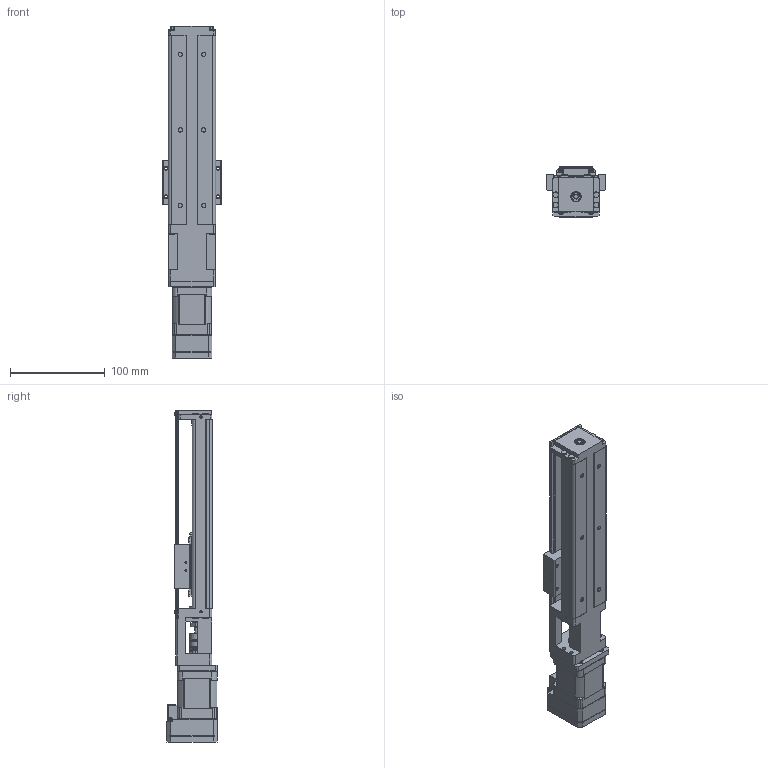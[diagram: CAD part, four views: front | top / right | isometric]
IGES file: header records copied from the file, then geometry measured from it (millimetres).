
Start section: SolidWorks IGES file using analytic representation for surfaces
Global section: file name: \\MYODRIVE\Public\CAD Files\Integrated-Actuators\SPA-Series\SPA-26\SPA26-A-02-110-S-10A0-17L30-X.IGS; native system: SolidWorks 2015; preprocessor: SolidWorks 2015; author: RENDER; date: 150106.125622; units: millimetre
Bounding box: 62 x 53 x 351.3 mm (x, y, z)
Surface area: 140682.2 mm2 (no closed solid volume)
Topology: 0 solids, 0 shells, 1966 faces, 21752 edges, 21707 vertices
Faces by surface type: bspline 1229, revolution 737
